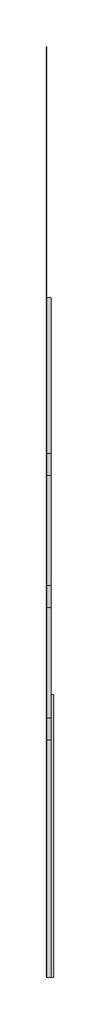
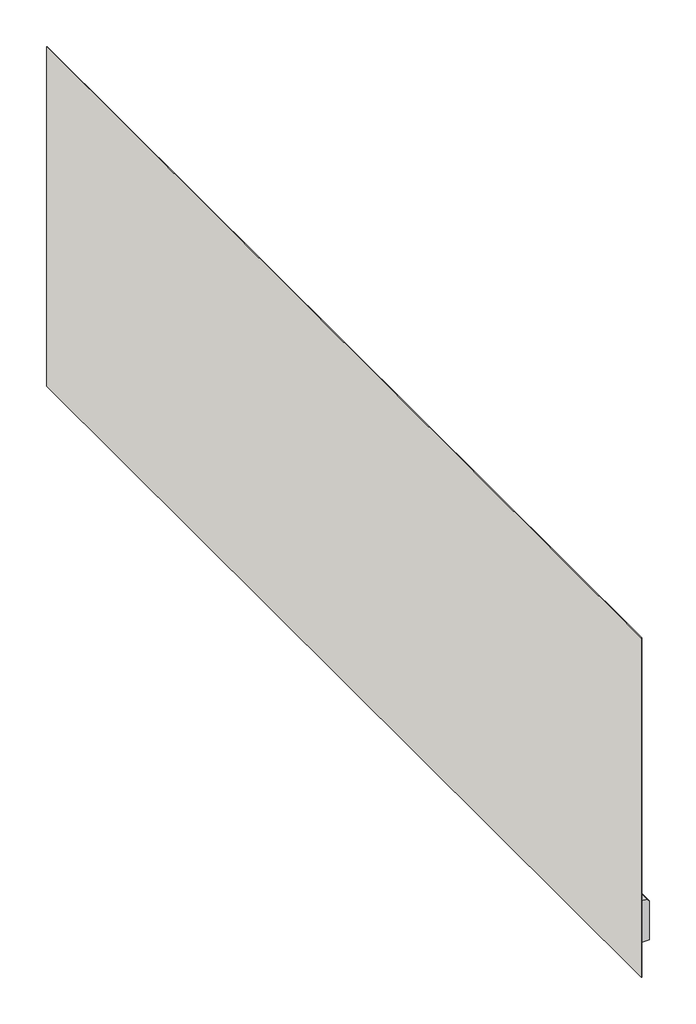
# One storey: 4 proxies, 1 wall.
"""IFC4 building model written with IfcOpenShell, lengths in millimetres."""

from ifc_helpers import new_model, si_unit, frame, origin, place, context, project, spatial, polyline, outline, extrude, transform, mapped, element, save
from components import generic_models_c79c0e69, generic_models_0db20ba5

model = new_model("IFC4")

# Units and contexts
model_context = context("Model", 3, world=origin())
ifc_project = project(units=[si_unit("LENGTHUNIT", "METRE", prefix="MILLI")], contexts=[model_context])

# Site, building, storey
site = spatial("IfcSite", under=ifc_project)
building = spatial("IfcBuilding", under=site)
storey = spatial("IfcBuildingStorey", under=building, Name="- EXAGRES_Catalogo ESCALERAS", Elevation=34000.0)

# Proxies
placement = place(None, origin())
element("IfcBuildingElementProxy", 1, Name="Exagres_Orobico_Gris_Skirting_9x60", ObjectType="Exagres_Orobico_Gris_Skirting_9x60", at=placement, inside=storey, context=model_context, shape_type="SweptSolid", body=[
    extrude(outline(polyline([(33910.0, -451.9029047), (33820.0, -451.9029047), (33820.0, -436.9029047), (33905.0, -436.9029047), (33910.0, -441.9029047), (33910.0, -451.9029047)])), frame((0.0, -11678.6587674, 0.0), z_axis=(0.0, 1.0, 0.0), x_axis=(0.0, 0.0, 1.0)), (0.0, 0.0, 1.0), 641.0),
])
generic_models_shape = generic_models_c79c0e69(model_context)
element("IfcBuildingElementProxy", 2, Name="EXAGRES - Step Skirting ML 39.5x17.5 : Exagres_Orobico_Gris_Left", ObjectType="EXAGRES - Step Skirting ML 39.5x17.5 : Exagres_Orobico_Gris_Left", at=placement, inside=storey, context=model_context, shape_type="MappedRepresentation", body=[
    mapped(generic_models_shape, transform((-451.9029047, -11041.6587674, 33987.3684211), x_axis=(0.0, 1.0, 0.0), y_axis=(0.0, 0.0, 1.0), z_axis=(1.0, 0.0, 0.0))),
])
generic_models_2_shape = generic_models_0db20ba5(model_context)
element("IfcBuildingElementProxy", 3, Name="EXAGRES - Step Skirting ML 39.5x17.5 : Exagres_Orobico_Gris_Left", ObjectType="EXAGRES - Step Skirting ML 39.5x17.5 : Exagres_Orobico_Gris_Left", at=placement, inside=storey, context=model_context, shape_type="MappedRepresentation", body=[
    mapped(generic_models_2_shape, transform((-451.9029047, -10441.6587674, 34322.1052632), x_axis=(0.0, 1.0, 0.0), y_axis=(0.0, 0.0, 1.0), z_axis=(1.0, 0.0, 0.0))),
])
element("IfcBuildingElementProxy", 4, Name="EXAGRES - Step Skirting ML 39.5x17.5 : Exagres_Orobico_Gris_Left", ObjectType="EXAGRES - Step Skirting ML 39.5x17.5 : Exagres_Orobico_Gris_Left", at=placement, inside=storey, context=model_context, shape_type="MappedRepresentation", body=[
    mapped(generic_models_2_shape, transform((-451.9029047, -10741.6587674, 34154.7368421), x_axis=(0.0, 1.0, 0.0), y_axis=(0.0, 0.0, 1.0), z_axis=(1.0, 0.0, 0.0))),
])

# Wall
element("IfcWall", 5, ObjectType="Muro básico:muro", at=placement, inside=storey, context=model_context, shape_type="SweptSolid", body=[
    extrude(outline(polyline([(-452.9029047, -11678.6587674), (-452.9029047, -9568.6587674), (-451.9029047, -9568.6587674), (-451.9029047, -11678.6587674), (-452.9029047, -11678.6587674)])), frame((0.0, 0.0, 33744.3153552), z_axis=(0.0, 0.0, 1.0), x_axis=(1.0, 0.0, 0.0)), (0.0, 0.0, 1.0), 734.4858442),
])

save(model, "model.ifc")
